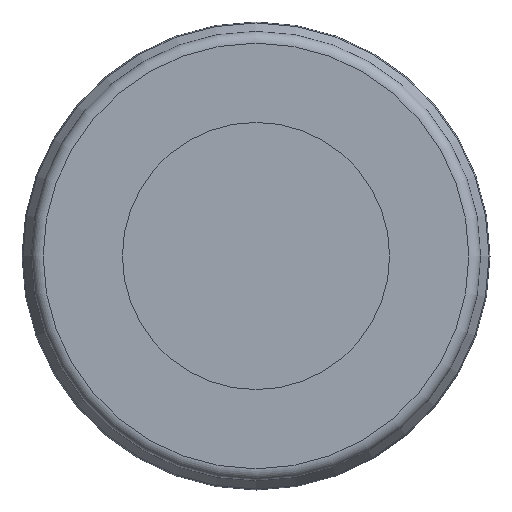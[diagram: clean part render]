
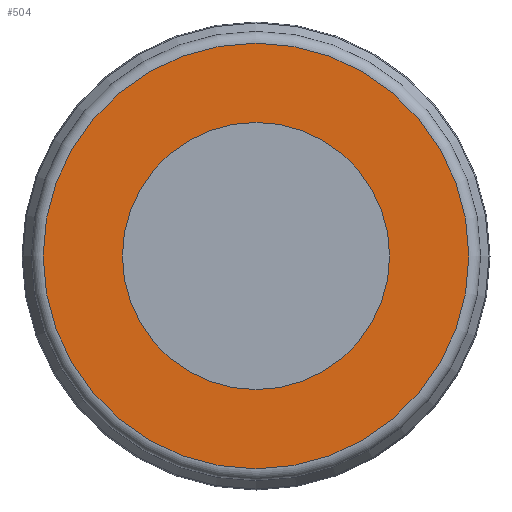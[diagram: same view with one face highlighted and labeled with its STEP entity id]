
A CAD part, left-side view. The second image highlights one B-rep face of the part: STEP entity #504.
In plain terms, the highlighted planar face has unit normal (-1, 0, 0).
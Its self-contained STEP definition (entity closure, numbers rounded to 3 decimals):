
#15=FACE_BOUND('',#96,.T.);
#18=PLANE('',#586);
#71=FACE_OUTER_BOUND('',#95,.T.);
#95=EDGE_LOOP('',(#404,#405));
#96=EDGE_LOOP('',(#406,#407));
#143=CIRCLE('',#584,2.275);
#144=CIRCLE('',#585,2.275);
#145=CIRCLE('',#587,3.625);
#146=CIRCLE('',#588,3.625);
#208=VERTEX_POINT('',#917);
#209=VERTEX_POINT('',#919);
#210=VERTEX_POINT('',#923);
#211=VERTEX_POINT('',#924);
#280=EDGE_CURVE('',#209,#208,#143,.T.);
#281=EDGE_CURVE('',#208,#209,#144,.T.);
#282=EDGE_CURVE('',#210,#211,#145,.T.);
#283=EDGE_CURVE('',#211,#210,#146,.T.);
#404=ORIENTED_EDGE('',*,*,#282,.F.);
#405=ORIENTED_EDGE('',*,*,#283,.F.);
#406=ORIENTED_EDGE('',*,*,#280,.T.);
#407=ORIENTED_EDGE('',*,*,#281,.T.);
#504=ADVANCED_FACE('',(#71,#15),#18,.T.);
#584=AXIS2_PLACEMENT_3D('',#920,#735,#736);
#585=AXIS2_PLACEMENT_3D('',#921,#737,#738);
#586=AXIS2_PLACEMENT_3D('',#922,#739,#740);
#587=AXIS2_PLACEMENT_3D('',#925,#741,#742);
#588=AXIS2_PLACEMENT_3D('',#926,#743,#744);
#735=DIRECTION('center_axis',(1.,0.,0.));
#736=DIRECTION('ref_axis',(0.,0.,-1.));
#737=DIRECTION('center_axis',(1.,0.,0.));
#738=DIRECTION('ref_axis',(0.,0.,-1.));
#739=DIRECTION('center_axis',(-1.,0.,0.));
#740=DIRECTION('ref_axis',(0.,0.,1.));
#741=DIRECTION('center_axis',(1.,0.,0.));
#742=DIRECTION('ref_axis',(0.,0.,-1.));
#743=DIRECTION('center_axis',(1.,0.,0.));
#744=DIRECTION('ref_axis',(0.,0.,-1.));
#917=CARTESIAN_POINT('',(0.,-2.275,0.));
#919=CARTESIAN_POINT('',(0.,2.275,0.));
#920=CARTESIAN_POINT('Origin',(0.,0.,0.));
#921=CARTESIAN_POINT('Origin',(0.,0.,0.));
#922=CARTESIAN_POINT('Origin',(0.,3.625,0.));
#923=CARTESIAN_POINT('',(0.,3.625,0.));
#924=CARTESIAN_POINT('',(0.,0.,3.625));
#925=CARTESIAN_POINT('Origin',(0.,0.,0.));
#926=CARTESIAN_POINT('Origin',(0.,0.,0.));
